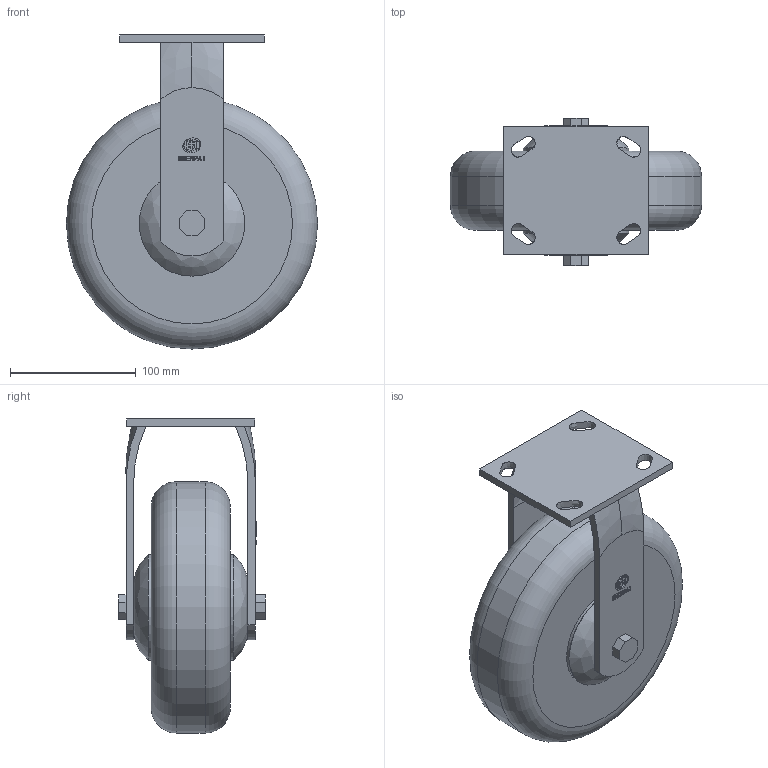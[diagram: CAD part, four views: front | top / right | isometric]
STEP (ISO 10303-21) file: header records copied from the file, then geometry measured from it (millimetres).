
FILE_DESCRIPTION(/* description */ (''),/* implementation_level */ '2;1');
FILE_NAME(/* name */ '65B07_8_R.stp',/* time_stamp */ '2022-08-29T13:17:45+08:00',/* author */ (''),/* organization */ (''),/* preprocessor_version */ 'ST-DEVELOPER v14',/* originating_system */ 'SIEMENS PLM Software NX 8.0',/* authorisation */ '');
FILE_SCHEMA (('AUTOMOTIVE_DESIGN { 1 0 10303 214 3 1 1 1 }'));
Length unit declared in the file: millimetre
Products named in the file (1): 65B07_8_R
Bounding box: 200 x 117 x 250 mm (x, y, z)
Volume: 2025681.9 mm3; surface area: 187344 mm2
Topology: 1 solids, 4 shells, 264 faces, 694 edges, 464 vertices
Faces by surface type: plane 206, cylinder 42, bspline 10, extrusion 4, torus 2
Full cylindrical faces by diameter (mm): 12 x3, 12.3 x2, 12.5 x2, 37 x1, 82.4 x2, 84 x2, 200 x1
Entity records: 8992 total; most frequent: CARTESIAN_POINT 3031, ORIENTED_EDGE 1326, DIRECTION 993, EDGE_CURVE 663, VERTEX_POINT 456, AXIS2_PLACEMENT_3D 341, EDGE_LOOP 329, VECTOR 311
